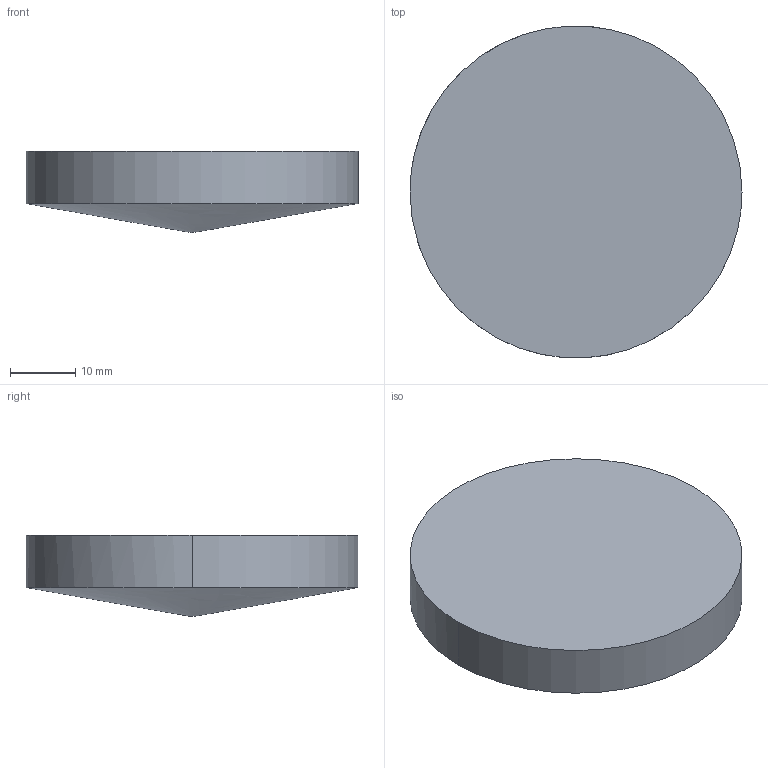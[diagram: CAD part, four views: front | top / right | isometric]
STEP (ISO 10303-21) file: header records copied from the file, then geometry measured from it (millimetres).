
FILE_DESCRIPTION ((), '1');
FILE_NAME ('\\fileserver\Daten\Applikationen\Optikdesign\SPA-Design\aktuelle SPA-Designs\Linsenkataloge - 2016-Juni\Zemax\XFL\XFL50-100.STP', '2016-05-24T14:30:05', ('Unknown'), ('Unknown'), 'HarmonyWare STEP v2.0.1', 'HarmonyWare Translators', '');
FILE_SCHEMA (('CONFIG_CONTROL_DESIGN'));
Length unit declared in the file: millimetre
Products named in the file (1): NONE
Bounding box: 50.8 x 50.77 x 12.48 mm (x, y, z)
Volume: 19257 mm3; surface area: 5364.6 mm2
Topology: 1 solids, 1 shells, 4 faces, 9 edges, 6 vertices
Faces by surface type: cylinder 2, bspline 1, plane 1
Entity records: 285 total; most frequent: CARTESIAN_POINT 134, ORIENTED_EDGE 16, EDGE_CURVE 8, PERSON 8, ORGANIZATION 8, PERSON_AND_ORGANIZATION 8, VERTEX_POINT 6, DIRECTION 6
